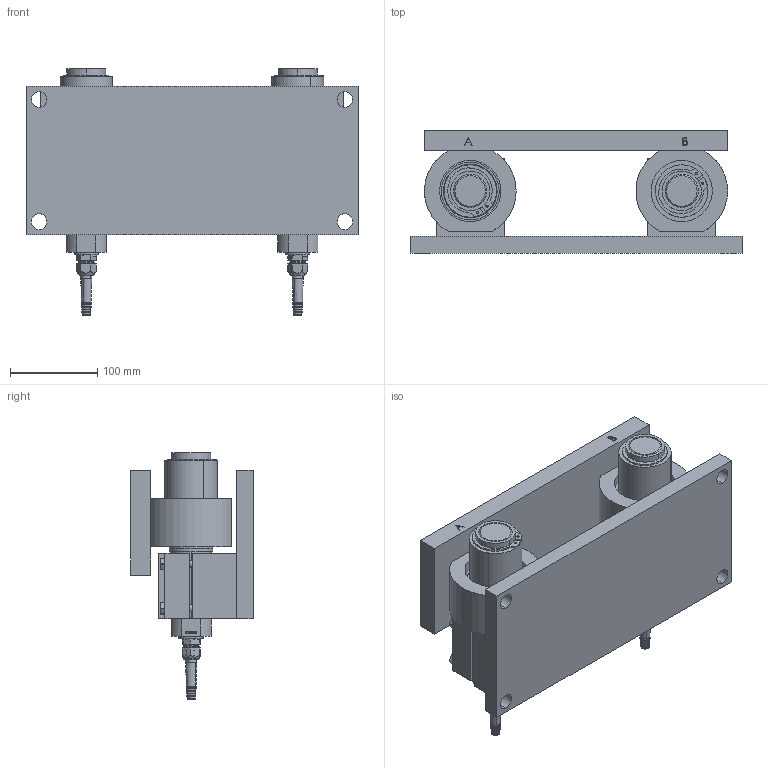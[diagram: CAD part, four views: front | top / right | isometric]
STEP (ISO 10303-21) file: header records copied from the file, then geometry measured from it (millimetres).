
FILE_DESCRIPTION (( 'STEP AP203' ), '1' );
FILE_NAME ('FMU-1 20-60 kN.STEP', '2017-05-02T08:28:28', ( 'VPG' ), ( 'VPG' ), 'SwSTEP 2.0', 'SolidWorks 2016', '' );
FILE_SCHEMA (( 'CONFIG_CONTROL_DESIGN' ));
Length unit declared in the file: millimetre
Products named in the file (20): Wiberger-frp_A2_6x18; Wiberger-sga_45; Överplatta FMU-1 20-60 kN; 1130487 - KIS-2 10kN Rostfri; Wiberger-sga_50; PRODUCT_NAME_1_1; FMU-1 20-60 kN; Wiberger-din933_m8x45; PRODUCT_NAME_2_1; 4087778r5; PRODUCT_NAME_3_1; 5159346r3; GE50ET-2RS-LS - Ledlager St嶚; 6385540r1; 6408204r1; M26x1.5 - Pg9 - 6369829; 6329184r2; Pg9 - 1009.52 6_2_14; Wiberger-sgh_80; Bottenplatta FMU-1 20-60 kN
Assembly tree (25 placements, depth 3):
  FMU-1 20-60 kN
    Bottenplatta FMU-1 20-60 kN
    Överplatta FMU-1 20-60 kN
    GE50ET-2RS-LS - Ledlager St嶚
      PRODUCT_NAME_1_1
      PRODUCT_NAME_2_1
      PRODUCT_NAME_3_1
    6408204r1  x2
    6329184r2
    Wiberger-sgh_80
    Wiberger-sga_45  x2
    Wiberger-sga_50
    Wiberger-din933_m8x45  x4
    1130487 - KIS-2 10kN Rostfri  x2
      4087778r5
      5159346r3
      6385540r1
      M26x1.5 - Pg9 - 6369829
      Pg9 - 1009.52 6_2_14
      Wiberger-frp_A2_6x18
Bounding box: 380 x 140 x 282 mm (x, y, z)
Volume: 4235463.1 mm3; surface area: 728580.4 mm2
Topology: 33 solids, 39 shells, 1356 faces, 3313 edges, 2107 vertices
Faces by surface type: plane 572, cylinder 429, cone 180, bspline 129, torus 46
Entity records: 29616 total; most frequent: CARTESIAN_POINT 8889, DIRECTION 3868, ORIENTED_EDGE 3776, EDGE_CURVE 1888, AXIS2_PLACEMENT_3D 1414, VERTEX_POINT 1215, LINE 1040, VECTOR 1040
